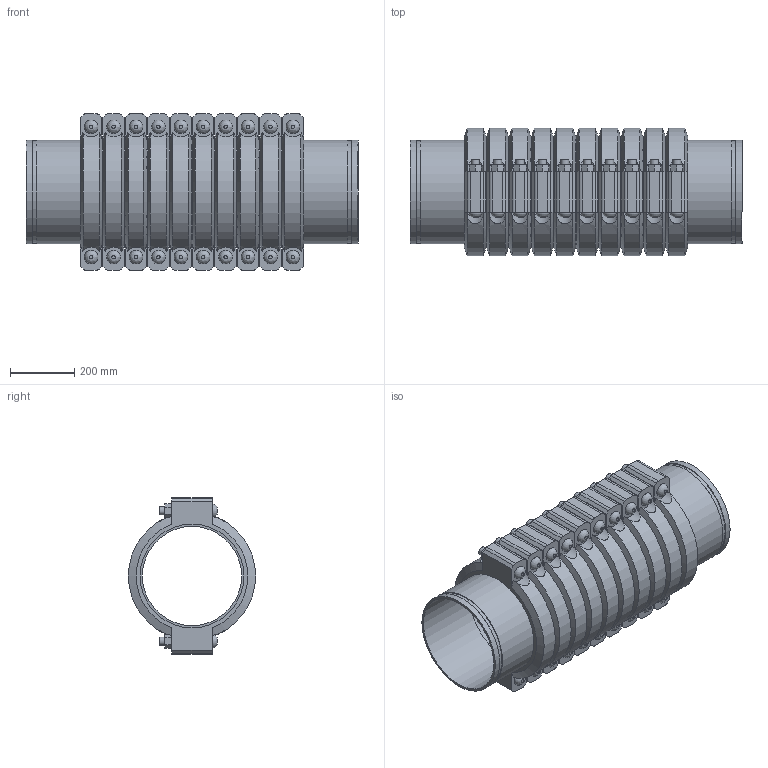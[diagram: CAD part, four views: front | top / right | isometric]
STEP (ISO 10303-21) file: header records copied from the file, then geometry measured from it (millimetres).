
FILE_DESCRIPTION(/* description */ ('VIC SS EXPANSION JOINT 10 COUPLINGS COMPRESSED STYLE 155P (OGS) (POTABLE WATER) ','CAx-IF Rec.Pracs.---Representation and Presentation of Product Manufacturing Information (PMI)---4.0---2014-10-13'),/* implementation_level */ '2;1');
FILE_NAME(/* name */ 'C:\Users\kkamble\AppData\Roaming\Autodesk\ApplicationPlugins\Victaulic.Temp\A563\Victaulic_SS_Expansion Joint_Compressed_10 Couplings_Style 155P (OGS)-Potable Water_10 Coup_Comp_12 (300).stp',/* time_stamp */ '2021-07-16T17:05:52+06:00',/* author */ ('kkamble'),/* organization */ ('Victaulic'),/* preprocessor_version */ 'ST-DEVELOPER v17.2',/* originating_system */ 'Autodesk Inventor 2019',/* authorisation */ '');
FILE_SCHEMA (('AP242_MANAGED_MODEL_BASED_3D_ENGINEERING_MIM_LF { 1 0 10303 442 1 1 4 }'));
Length unit declared in the file: inch
Products named in the file (4): 155P-12.0; Nipple-12.0; Nipple-12.0_1; 077-12.0
Assembly tree (21 placements, depth 2):
  155P-12.0
    Nipple-12.0  x2
    Nipple-12.0_1  x9
    077-12.0  x10
Bounding box: 1035.05 x 397 x 488.95 mm (x, y, z)
Volume: 40495813.5 mm3; surface area: 5445798.9 mm2
Topology: 21 solids, 41 shells, 702 faces, 1720 edges, 1204 vertices
Faces by surface type: plane 406, cylinder 236, cone 40, bspline 20
Full cylindrical faces by diameter (mm): 25.4 x40, 27.432 x20, 309.677 x11, 318.287 x22, 323.85 x43
Entity records: 3025 total; most frequent: CARTESIAN_POINT 655, DIRECTION 479, ORIENTED_EDGE 398, EDGE_CURVE 199, AXIS2_PLACEMENT_3D 196, VERTEX_POINT 142, EDGE_LOOP 105, CIRCLE 92
